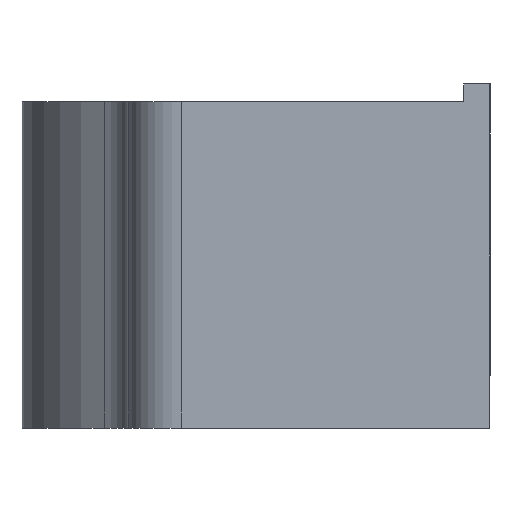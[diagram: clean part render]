
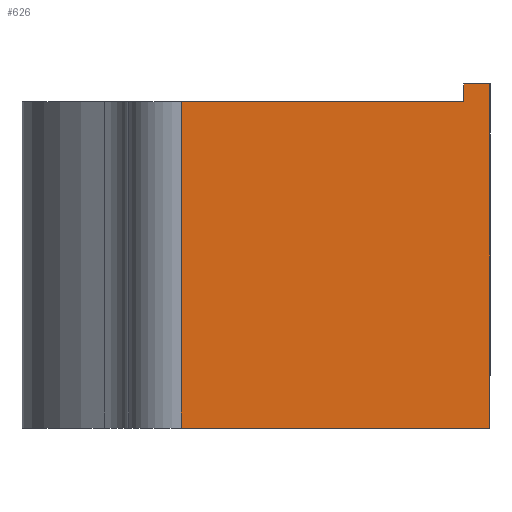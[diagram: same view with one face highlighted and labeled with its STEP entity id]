
A CAD part, left-side view. The second image highlights one B-rep face of the part: STEP entity #626.
In plain terms, the highlighted planar face has unit normal (-1, 0, 0).
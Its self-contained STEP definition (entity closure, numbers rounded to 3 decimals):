
#32=PLANE('',#690);
#64=FACE_OUTER_BOUND('',#96,.T.);
#96=EDGE_LOOP('',(#555,#556,#557,#558,#559,#560));
#113=LINE('',#913,#179);
#122=LINE('',#931,#188);
#126=LINE('',#937,#192);
#159=LINE('',#1032,#225);
#161=LINE('',#1043,#227);
#163=LINE('',#1052,#229);
#179=VECTOR('',#727,10.);
#188=VECTOR('',#740,10.);
#192=VECTOR('',#746,10.);
#225=VECTOR('',#841,10.);
#227=VECTOR('',#853,3.);
#229=VECTOR('',#867,10.);
#269=VERTEX_POINT('',#910);
#270=VERTEX_POINT('',#912);
#275=VERTEX_POINT('',#927);
#277=VERTEX_POINT('',#930);
#309=VERTEX_POINT('',#1031);
#312=VERTEX_POINT('',#1039);
#333=EDGE_CURVE('',#270,#269,#113,.T.);
#342=EDGE_CURVE('',#275,#277,#122,.T.);
#346=EDGE_CURVE('',#277,#269,#126,.T.);
#393=EDGE_CURVE('',#270,#309,#159,.T.);
#399=EDGE_CURVE('',#309,#312,#161,.T.);
#403=EDGE_CURVE('',#312,#275,#163,.T.);
#555=ORIENTED_EDGE('',*,*,#399,.F.);
#556=ORIENTED_EDGE('',*,*,#393,.F.);
#557=ORIENTED_EDGE('',*,*,#333,.T.);
#558=ORIENTED_EDGE('',*,*,#346,.F.);
#559=ORIENTED_EDGE('',*,*,#342,.F.);
#560=ORIENTED_EDGE('',*,*,#403,.F.);
#626=ADVANCED_FACE('',(#64),#32,.T.);
#690=AXIS2_PLACEMENT_3D('',#1051,#865,#866);
#727=DIRECTION('',(0.,0.,1.));
#740=DIRECTION('',(0.,0.,1.));
#746=DIRECTION('',(0.,-1.,0.));
#841=DIRECTION('',(0.,1.,0.));
#853=DIRECTION('',(0.,0.,1.));
#865=DIRECTION('center_axis',(-1.,0.,0.));
#866=DIRECTION('ref_axis',(0.,-1.,0.));
#867=DIRECTION('',(0.,-1.,0.));
#910=CARTESIAN_POINT('',(-14.,-9.5,18.5));
#912=CARTESIAN_POINT('',(-14.,-9.5,-1.));
#913=CARTESIAN_POINT('',(-14.,-9.5,0.));
#927=CARTESIAN_POINT('',(-14.,-8.,17.5));
#930=CARTESIAN_POINT('',(-14.,-8.,18.5));
#931=CARTESIAN_POINT('',(-14.,-8.,17.5));
#937=CARTESIAN_POINT('',(-14.,-8.,18.5));
#1031=CARTESIAN_POINT('',(-14.,8.002,-1.));
#1032=CARTESIAN_POINT('',(-14.,-9.5,-1.));
#1039=CARTESIAN_POINT('',(-14.,8.002,17.5));
#1043=CARTESIAN_POINT('',(-14.,8.002,0.));
#1051=CARTESIAN_POINT('Origin',(-14.,11.,0.));
#1052=CARTESIAN_POINT('',(-14.,11.,17.5));
